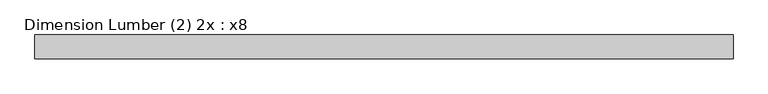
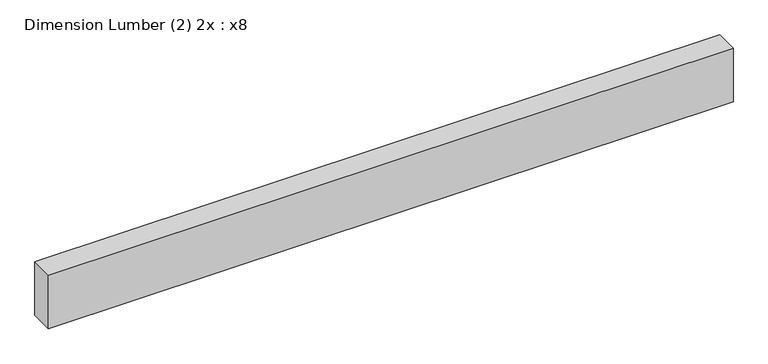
"""IFC4 building model written with IfcOpenShell, lengths in millimetres: beam geometry, Dimension Lumber (2) 2x : x8."""

from ifc_helpers import new_model, si_unit, frame, origin, place, context, project, spatial, polyline, outline, extrude, source, transform, mapped, element, save


def dimension_lumber_2_2x_x8_5ad3034a(model_context):
    return source(origin(), model_context, "Body", "SweptSolid", [
        extrude(outline(polyline([(1113.1296, 38.1), (1113.1296, -38.1), (-1113.1296, -38.1), (-1113.1296, 38.1), (1113.1296, 38.1)])), frame((0.0, 0.0, -92.075), z_axis=(0.0, 0.0, 1.0), x_axis=(1.0, 0.0, 0.0)), (0.0, 0.0, 1.0), 184.15),
    ])


if __name__ == "__main__":
    model = new_model("IFC4")
    model_context = context("Model", 3, world=origin())
    ifc_project = project(units=[si_unit("LENGTHUNIT", "METRE", prefix="MILLI")], contexts=[model_context])
    site = spatial("IfcSite", under=ifc_project)
    building = spatial("IfcBuilding", under=site)
    placement = place(None, origin())
    dimension_lumber_2_2x_x8_shape = dimension_lumber_2_2x_x8_5ad3034a(model_context)
    element("IfcBeam", 1, ObjectType="Dimension Lumber (2) 2x : x8", at=placement, inside=building, context=model_context, shape_type="MappedRepresentation", body=[
        mapped(dimension_lumber_2_2x_x8_shape, transform((0.0, 0.0, 0.0), x_axis=(1.0, 0.0, 0.0), y_axis=(0.0, 1.0, 0.0), z_axis=(0.0, 0.0, 1.0))),
    ])
    save(model, "model.ifc")
